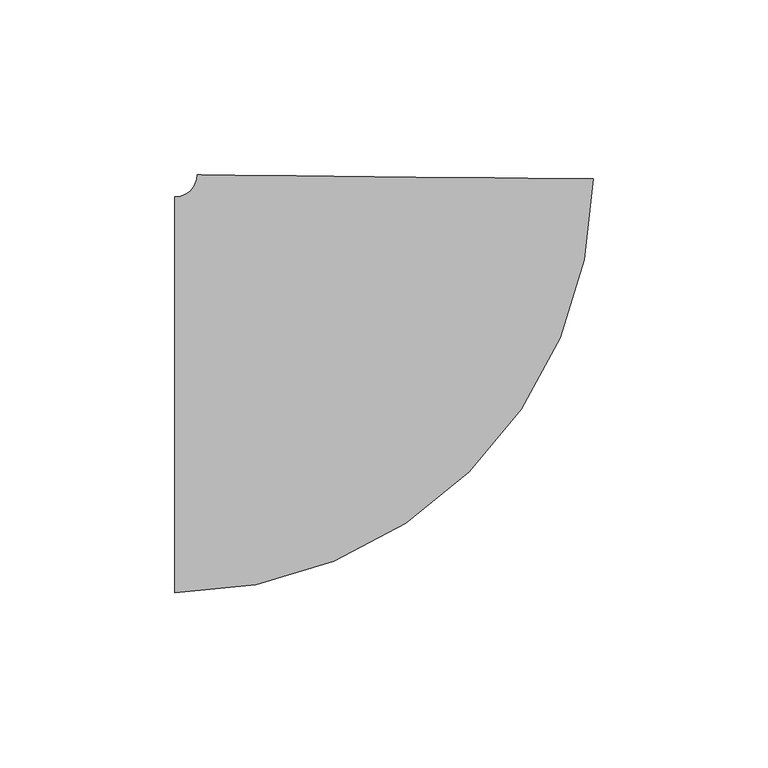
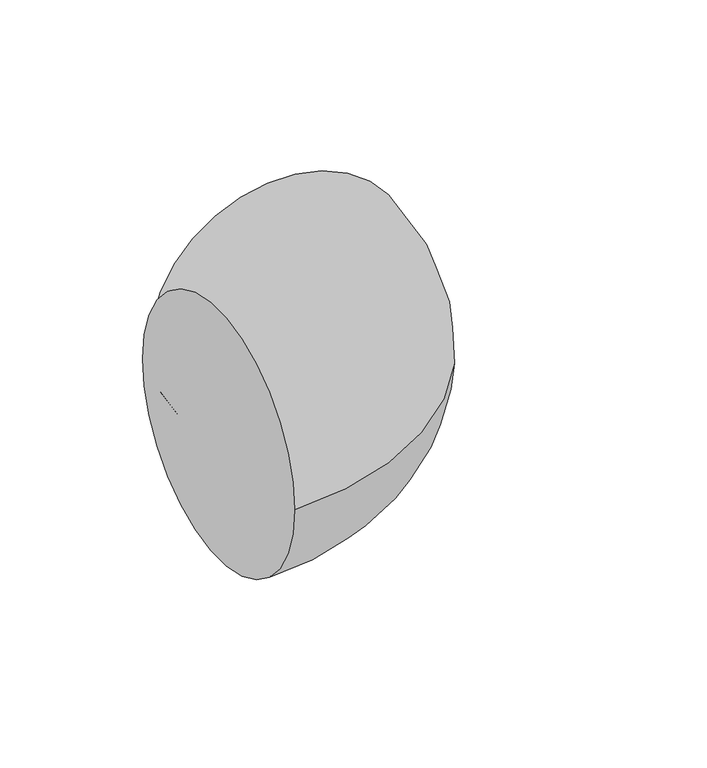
"""IFC4 building model written with IfcOpenShell, lengths in millimetres: pipe fitting geometry, M_Codo - Genérico : Estándar."""

from ifc_helpers import new_model, si_unit, point, frame, origin, place, context, project, spatial, circle_curve, ellipse_curve, trimmed, source, transform, mapped, element, save
from ifc_brep_helpers import plane_surface, revolved_surface, advanced_brep


def pipe_fitting_39727cd3(model_context):
    return source(origin(), model_context, "Body", "AdvancedBrep", [
        advanced_brep(
        [(-62.3113382, -56.5875, 0.0), (-62.3113382, 56.5875, 0.0), (57.2076873, 61.7424371, 0.0), (-55.9616556, 62.8740099, 0.0)],
        [
            (0, 1, circle_curve(frame((-62.3113382, 0.0, 0.0), z_axis=(-1.0, 0.0, 0.0), x_axis=(0.0, 1.0, 0.0)), 56.5875)),
            (1, 0, circle_curve(frame((-62.3113382, 0.0, 0.0), z_axis=(-1.0, 0.0, 0.0), x_axis=(0.0, 1.0, 0.0)), 56.5875)),
            (2, 3, circle_curve(frame((0.6230158, 62.3082235, 0.0), z_axis=(0.009998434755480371, 0.9999500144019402, 0.0), x_axis=(-0.9999500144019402, 0.009998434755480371, 0.0)), 56.5875)),
            (3, 2, circle_curve(frame((0.6230158, 62.3082235, 0.0), z_axis=(0.009998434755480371, 0.9999500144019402, 0.0), x_axis=(-0.9999500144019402, 0.009998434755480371, 0.0)), 56.5875)),
            (3, 1, circle_curve(frame((-62.3113382, 62.9375, 0.0), z_axis=(0.0, 0.0, -1.0), x_axis=(0.0, -1.0, 0.0)), 6.35)),
            (0, 2, circle_curve(frame((-62.3113382, 62.9375, 0.0), z_axis=(0.0, 0.0, 1.0), x_axis=(0.0, -1.0, 0.0)), 119.525)),
        ],
        [
            plane_surface(frame((-62.3113382, 0.0, 0.0), z_axis=(-1.0, 0.0, 0.0), x_axis=(0.0, 0.0, 1.0))),
            plane_surface(frame((0.6230158, 62.3082235, 0.0), z_axis=(0.009998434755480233, 0.9999500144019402, 0.0), x_axis=(0.0, 0.0, 1.0))),
            revolved_surface(trimmed(ellipse_curve(frame((-62.3113382, 0.0, 0.0), z_axis=(-1.0, 0.0, 0.0), x_axis=(0.0, 1.0, 0.0)), 56.5875, 56.5875), [point((-62.3113382, -56.5875, 0.0))], [point((-62.3113382, 56.5875, 0.0))], True, "CARTESIAN"), (-62.3113382, 62.9375, 0.0), (0.0, 0.0, 1.0)),
            revolved_surface(trimmed(ellipse_curve(frame((-62.3113382, 0.0, 0.0), z_axis=(-1.0, 0.0, 0.0), x_axis=(0.0, 1.0, 0.0)), 56.5875, 56.5875), [point((-62.3113382, 56.5875, 0.0))], [point((-62.3113382, -56.5875, 0.0))], True, "CARTESIAN"), (-62.3113382, 62.9375, 0.0), (0.0, 0.0, 1.0)),
        ],
        [
            (0, [[1, 2]]),
            (1, [[3, 4]]),
            (2, [[5, -1, 6, -4]]),
            (3, [[-6, -2, -5, -3]]),
        ],
    ),
    ])


if __name__ == "__main__":
    model = new_model("IFC4")
    model_context = context("Model", 3, world=origin())
    ifc_project = project(units=[si_unit("LENGTHUNIT", "METRE", prefix="MILLI")], contexts=[model_context])
    site = spatial("IfcSite", under=ifc_project)
    building = spatial("IfcBuilding", under=site)
    placement = place(None, origin())
    pipe_fitting_shape = pipe_fitting_39727cd3(model_context)
    element("IfcPipeFitting", 1, ObjectType="M_Codo - Genérico : Estándar", at=placement, inside=building, context=model_context, shape_type="MappedRepresentation", body=[
        mapped(pipe_fitting_shape, transform((0.0, 0.0, 0.0), x_axis=(1.0, 0.0, 0.0), y_axis=(0.0, 1.0, 0.0), z_axis=(0.0, 0.0, 1.0))),
    ])
    save(model, "model.ifc")
